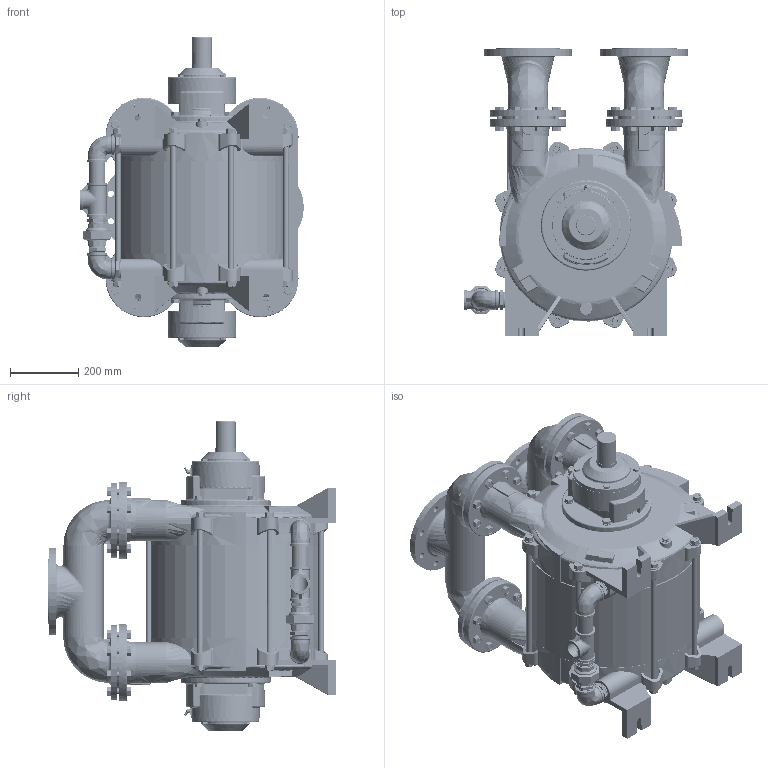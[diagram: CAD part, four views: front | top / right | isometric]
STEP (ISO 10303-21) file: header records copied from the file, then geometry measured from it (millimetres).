
FILE_DESCRIPTION (( 'STEP AP214' ), '1' );
FILE_NAME ('gmvt 410-260 montaj.STEP', '2024-05-13T11:32:17', ( '' ), ( '' ), 'SwSTEP 2.0', 'SolidWorks 2024', '' );
FILE_SCHEMA (( 'AUTOMOTIVE_DESIGN' ));
Length unit declared in the file: millimetre
Products named in the file (1): gmvt 410-260 montaj
Bounding box: 654.76 x 843 x 907 mm (x, y, z)
Volume: 130113673.3 mm3; surface area: 4566517.8 mm2
Topology: 112 solids, 138 shells, 6210 faces, 15880 edges, 9954 vertices
Faces by surface type: plane 1616, cylinder 1616, bspline 1348, cone 1330, torus 265, sphere 35
Entity records: 571083 total; most frequent: CARTESIAN_POINT 436997, ORIENTED_EDGE 31474, DIRECTION 21347, EDGE_CURVE 15737, VERTEX_POINT 9950, AXIS2_PLACEMENT_3D 8611, B_SPLINE_CURVE_WITH_KNOTS 7778, EDGE_LOOP 6703
